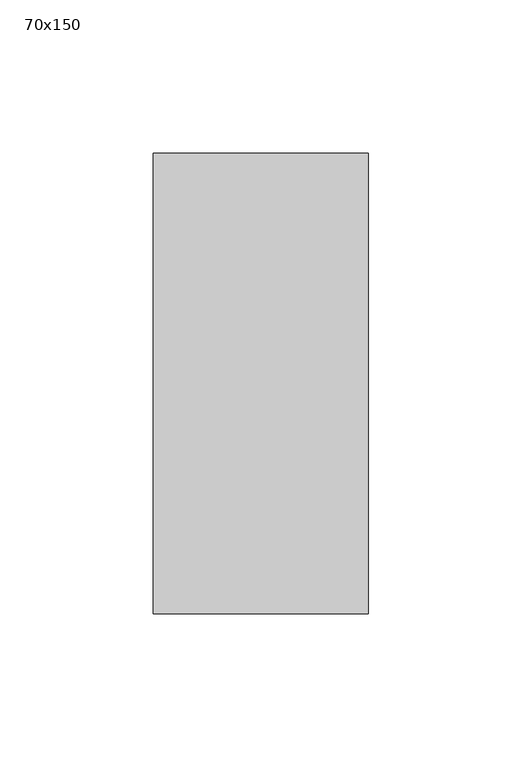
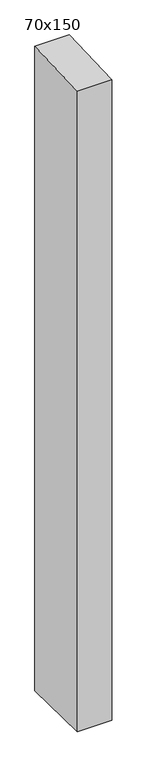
"""IFC4 building model written with IfcOpenShell, lengths in millimetres: member geometry, 長方形のマリオン : 70x150."""

from ifc_helpers import new_model, si_unit, frame, origin, place, context, project, spatial, polyline, outline, extrude, source, transform, mapped, element, save


def member_70x150_6c5de3ba(model_context):
    return source(origin(), model_context, "Body", "SweptSolid", [
        extrude(outline(polyline([(-75.0, -2.6562149), (75.0, 2.6562149), (75.0, -1383.3944048), (-75.0, -1380.6160043), (-75.0, -2.6562149)])), frame((-70.0, 0.0, 0.0), z_axis=(1.0, 0.0, 0.0), x_axis=(0.0, 1.0, 0.0)), (0.0, 0.0, 1.0), 70.0),
    ])


if __name__ == "__main__":
    model = new_model("IFC4")
    model_context = context("Model", 3, world=origin())
    ifc_project = project(units=[si_unit("LENGTHUNIT", "METRE", prefix="MILLI")], contexts=[model_context])
    site = spatial("IfcSite", under=ifc_project)
    building = spatial("IfcBuilding", under=site)
    placement = place(None, origin())
    member_70x150_shape = member_70x150_6c5de3ba(model_context)
    element("IfcMember", 1, ObjectType="長方形のマリオン : 70x150", at=placement, inside=building, context=model_context, shape_type="MappedRepresentation", body=[
        mapped(member_70x150_shape, transform((0.0, 0.0, 0.0), x_axis=(1.0, 0.0, 0.0), y_axis=(0.0, 1.0, 0.0), z_axis=(0.0, 0.0, 1.0))),
    ])
    save(model, "model.ifc")
